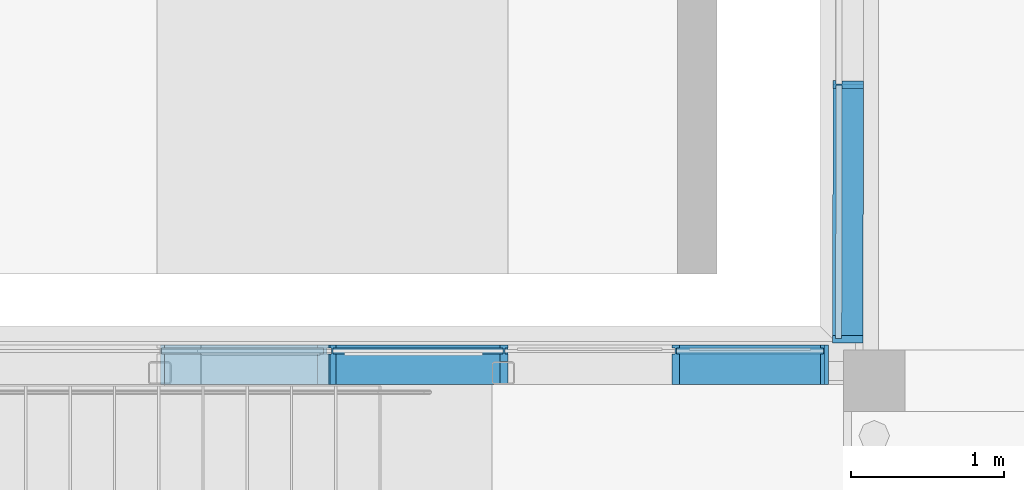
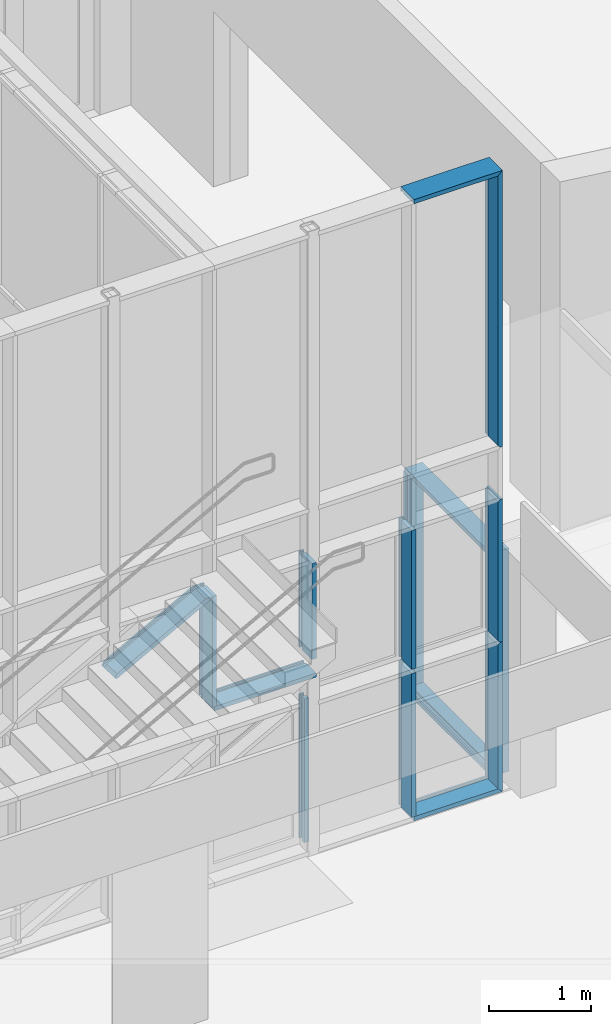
# One storey, part 37 of 301: 16 members, 2 elements without a shape of their own.
"""IFC2X3 building model written with IfcOpenShell, lengths in millimetres."""

from ifc_helpers import new_model, entity, si_unit, converted_unit, derived_unit, money_unit, direction, frame, origin_with_axes, place, context, subcontext, project, spatial, faceted_brep, material, type_object, element, aggregate, save


model = new_model("IFC2X3")

# Units and contexts
model_context = context("Model", 3, precision=0.01, world=origin_with_axes(), true_north=direction((0.0, 1.0)))
body_context = subcontext(model_context, "Body", "Model", "MODEL_VIEW")
ifc_project = project(units=[si_unit("LENGTHUNIT", "METRE", prefix="MILLI"), si_unit("AREAUNIT", "SQUARE_METRE"), si_unit("VOLUMEUNIT", "CUBIC_METRE"), converted_unit("PLANEANGLEUNIT", "DEGREE", entity("IfcPlaneAngleMeasure", 0.0174532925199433), si_unit("PLANEANGLEUNIT", "RADIAN"), dimensions=[0, 0, 0, 0, 0, 0, 0]), money_unit("EUR"), converted_unit("TIMEUNIT", "Year", entity("IfcTimeMeasure", 31557600.0), si_unit("TIMEUNIT", "SECOND"), dimensions=[0, 0, 1, 0, 0, 0, 0]), si_unit("MASSUNIT", "GRAM", prefix="KILO"), si_unit("THERMODYNAMICTEMPERATUREUNIT", "DEGREE_CELSIUS"), si_unit("LUMINOUSINTENSITYUNIT", "LUMEN"), si_unit("ENERGYUNIT", "JOULE", prefix="MEGA"), derived_unit("THERMALCONDUCTANCEUNIT", [(si_unit("POWERUNIT", "WATT"), 1), (si_unit("LENGTHUNIT", "METRE"), -1), (si_unit("THERMODYNAMICTEMPERATUREUNIT", "KELVIN"), -1)]), derived_unit("SPECIFICHEATCAPACITYUNIT", [(si_unit("ENERGYUNIT", "JOULE"), 1), (si_unit("MASSUNIT", "GRAM", prefix="KILO"), -1), (si_unit("THERMODYNAMICTEMPERATUREUNIT", "KELVIN"), -1)]), derived_unit("MASSDENSITYUNIT", [(si_unit("MASSUNIT", "GRAM", prefix="KILO"), 1), (si_unit("VOLUMEUNIT", "CUBIC_METRE"), -1)])], contexts=[model_context])

# Site, building, storey
site_placement = place(None, frame((0.0, 0.0, 8650.0), z_axis=(0.0, 0.0, 1.0), x_axis=(1.0, 0.0, 0.0)))
site = spatial("IfcSite", under=ifc_project, at=site_placement, Name="43301:001:0844", CompositionType="ELEMENT")
building_placement = place(site_placement, origin_with_axes())
building = spatial("IfcBuilding", under=site, at=building_placement, Name="Kuressaare Ametikooli tuulikute mehaanikute õppekorpus", CompositionType="ELEMENT")
storey_placement = place(building_placement, origin_with_axes())
storey = spatial("IfcBuildingStorey", under=building, at=storey_placement, Name="1.korrus", CompositionType="ELEMENT", Elevation=0.0)

# Curtain wall, members
curtain_wall_type = type_object("IfcCurtainWallType", Name="Curtain Wall Type", PredefinedType="NOTDEFINED")
curtain_wall_1_placement = place(storey_placement, frame((116704.6026822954, 28579.57374875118, 35.00000000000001), z_axis=(0.0, 0.0, 1.0), x_axis=(1.0, 0.0, 0.0)))
curtain_wall_1 = element("IfcCurtainWall", 1, at=curtain_wall_1_placement, inside=storey, type_object=curtain_wall_type, Name="KF-1.1")
ifc_material = material(Name="Aluminium")
member_type_1 = type_object("IfcMemberType", Name="Boundary Frame 50 x 260", PredefinedType="NOTDEFINED")
member_1_placement = place(curtain_wall_1_placement, frame((-1687.5, 0.0, 2099.999959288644), z_axis=(1.0, 0.0, 0.0), x_axis=(0.0, 0.0, 1.0)))
member_1 = element("IfcMember", 2, at=member_1_placement, type_object=member_type_1, material=ifc_material, context=body_context, shape_type="Brep", body=[
    faceted_brep([(-4.999999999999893, 19.99999999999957, 1150.000000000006), (-4.999999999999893, -19.99999999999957, 1150.000000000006), (-24.99999999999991, -19.99999999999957, 1150.000000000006), (-24.99999999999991, -39.99999999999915, 1150.000000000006), (24.99999999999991, -39.99999999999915, 1150.000000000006), (24.99999999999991, -19.99999999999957, 1150.000000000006), (4.999999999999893, -19.99999999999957, 1150.000000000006), (4.999999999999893, 19.99999999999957, 1150.000000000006), (24.99999999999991, 19.99999999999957, 1150.000000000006), (24.99999999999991, 219.9999999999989, 1150.000000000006), (-24.99999999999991, 219.9999999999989, 1150.000000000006), (-24.99999999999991, 19.99999999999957, 1150.000000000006), (-4.999999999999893, 19.99999999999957, 0.0), (-4.999999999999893, -19.99999999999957, 0.0), (-24.99999999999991, -19.99999999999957, 0.0), (-24.99999999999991, -39.99999999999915, 0.0), (24.99999999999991, -39.99999999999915, 0.0), (24.99999999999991, -19.99999999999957, 0.0), (4.999999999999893, -19.99999999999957, 0.0), (4.999999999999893, 19.99999999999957, 0.0), (24.99999999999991, 19.99999999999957, 0.0), (24.99999999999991, 219.9999999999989, 0.0), (-24.99999999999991, 219.9999999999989, 0.0), (-24.99999999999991, 19.99999999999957, 0.0)], [[[0, 1, 2, 3, 4, 5, 6, 7, 8, 9, 10, 11]], [[0, 12, 13, 1]], [[1, 13, 14, 2]], [[14, 15, 3, 2]], [[3, 15, 16, 4]], [[17, 5, 4, 16]], [[5, 17, 18, 6]], [[7, 6, 18, 19]], [[8, 7, 19, 20]], [[8, 20, 21, 9]], [[9, 21, 22, 10]], [[11, 10, 22, 23]], [[11, 23, 12, 0]], [[13, 12, 23, 22, 21, 20, 19, 18, 17, 16, 15, 14]]]),
])
member_2_placement = place(curtain_wall_1_placement, frame((1536.918865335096, 0.0, 1765.000006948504), z_axis=(0.0, 0.0, 1.0), x_axis=(-1.0, 0.0, 0.0)))
member_2 = element("IfcMember", 3, at=member_2_placement, type_object=member_type_1, material=ifc_material, context=body_context, shape_type="Brep", body=[
    faceted_brep([(4.999999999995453, 19.99999999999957, 1700.000018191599), (25.00000000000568, 19.99999999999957, 1680.000017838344), (25.00000000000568, 219.9999999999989, 1680.000017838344), (0.0, 219.9999999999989, 1705.000018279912), (0.0, -39.99999999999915, 1705.000018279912), (25.00000000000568, -39.99999999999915, 1680.000017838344), (25.00000000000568, -19.99999999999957, 1680.000017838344), (4.999999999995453, -19.99999999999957, 1700.000018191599), (4.999999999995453, 19.99999999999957, 4.999999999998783), (25.00000000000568, 19.99999999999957, 24.99999999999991), (25.00000000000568, 219.9999999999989, 24.99999999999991), (0.0, 219.9999999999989, 0.0), (-25.00000000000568, 219.9999999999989, 0.0), (-25.00000000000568, 219.9999999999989, 1705.000018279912), (-25.00000000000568, -39.99999999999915, 1705.000018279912), (-25.00000000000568, -39.99999999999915, 0.0), (0.0, -39.99999999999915, 0.0), (25.00000000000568, -39.99999999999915, 24.99999999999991), (25.00000000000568, -19.99999999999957, 24.99999999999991), (4.999999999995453, -19.99999999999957, 4.999999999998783)], [[[0, 1, 2, 3, 4, 5, 6, 7]], [[0, 8, 9, 1]], [[9, 10, 2, 1]], [[3, 2, 10, 11, 12, 13]], [[14, 4, 3, 13]], [[14, 15, 16, 17, 5, 4]], [[6, 5, 17, 18]], [[18, 19, 7, 6]], [[7, 19, 8, 0]], [[8, 19, 18, 17, 16, 11, 10, 9]], [[11, 16, 15, 12]], [[14, 13, 12, 15]]]),
])
member_3_placement = place(curtain_wall_1_placement, frame((562.5, 0.0, 0.0), z_axis=(1.0, 0.0, 0.0), x_axis=(0.0, 0.0, 1.0)))
member_3 = element("IfcMember", 4, at=member_3_placement, type_object=member_type_1, material=ifc_material, context=body_context, shape_type="Brep", body=[
    faceted_brep([(5.000000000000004, 19.99999999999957, 969.4188653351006), (25.00000000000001, 19.99999999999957, 949.4188653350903), (25.00000000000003, 219.9999999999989, 949.4188653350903), (-24.99999999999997, 219.9999999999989, 999.4188653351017), (-25.0, -39.99999999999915, 999.4188653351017), (24.99999999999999, -39.99999999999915, 949.4188653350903), (24.99999999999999, -19.99999999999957, 949.4188653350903), (4.999999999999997, -19.99999999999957, 969.4188653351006), (5.000000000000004, 19.99999999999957, 0.0), (25.00000000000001, 19.99999999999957, 0.0), (25.00000000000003, 219.9999999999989, 0.0), (-24.99999999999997, 219.9999999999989, 0.0), (-25.0, -39.99999999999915, 0.0), (24.99999999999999, -39.99999999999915, 0.0), (24.99999999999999, -19.99999999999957, 0.0), (4.999999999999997, -19.99999999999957, 0.0)], [[[0, 1, 2, 3, 4, 5, 6, 7]], [[0, 8, 9, 1]], [[9, 10, 2, 1]], [[10, 11, 3, 2]], [[11, 12, 4, 3]], [[12, 13, 5, 4]], [[6, 5, 13, 14]], [[14, 15, 7, 6]], [[7, 15, 8, 0]], [[8, 15, 14, 13, 12, 11, 10, 9]]]),
])
member_4_placement = place(curtain_wall_1_placement, frame((1536.918865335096, 0.0, 4090.0), z_axis=(5.811211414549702e-08, 0.0, 0.9999999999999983), x_axis=(-0.9999999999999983, 0.0, 5.811211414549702e-08)))
member_4 = element("IfcMember", 5, at=member_4_placement, type_object=member_type_1, material=ifc_material, context=body_context, shape_type="Brep", body=[
    faceted_brep([(5.000189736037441, 19.99999999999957, 3264.999966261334), (25.00018857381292, 19.99999999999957, 3244.9999634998), (25.00018857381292, 219.9999999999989, 3244.9999634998), (-24.99980852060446, 219.9999999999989, 3294.999970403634), (-24.99980852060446, -39.99999999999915, 3294.999970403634), (25.00018857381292, -39.99999999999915, 3244.9999634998), (25.00018857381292, -19.99999999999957, 3244.9999634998), (5.000189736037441, -19.99999999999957, 3264.999966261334), (5.000000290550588, 19.99999999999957, 4.999999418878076), (25.00000145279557, 19.99999999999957, 24.99999709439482), (25.00000145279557, 219.9999999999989, 24.99999709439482), (0.0, 219.9999999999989, 0.0), (-25.00000000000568, 219.9999999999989, 1.452802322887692e-06), (-25.00000000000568, -39.99999999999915, 1.452802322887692e-06), (0.0, -39.99999999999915, 0.0), (25.00000145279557, -39.99999999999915, 24.99999709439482), (25.00000145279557, -19.99999999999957, 24.99999709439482), (5.000000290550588, -19.99999999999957, 4.999999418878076)], [[[0, 1, 2, 3, 4, 5, 6, 7]], [[0, 8, 9, 1]], [[9, 10, 2, 1]], [[2, 10, 11, 12, 3]], [[3, 12, 13, 4]], [[13, 14, 15, 5, 4]], [[6, 5, 15, 16]], [[16, 17, 7, 6]], [[7, 17, 8, 0]], [[8, 17, 16, 15, 14, 11, 10, 9]], [[11, 14, 13, 12]]]),
])
member_5_placement = place(curtain_wall_1_placement, frame((1536.919055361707, 0.0, 7359.999966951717), z_axis=(-0.9999999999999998, 0.0, -2.1852463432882e-08), x_axis=(2.1852463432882e-08, 0.0, -0.9999999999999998)))
member_5 = element("IfcMember", 6, at=member_5_placement, type_object=member_type_1, material=ifc_material, context=body_context, shape_type="Brep", body=[
    faceted_brep([(4.999978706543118, 19.99999999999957, 974.4190560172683), (24.99997870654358, 19.99999999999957, 974.4190564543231), (24.99997870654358, 219.9999999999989, 974.4190564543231), (-25.00002129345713, 219.9999999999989, 974.4190553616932), (-25.00002129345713, -39.99999999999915, 974.4190553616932), (24.99997870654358, -39.99999999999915, 974.4190564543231), (24.99997870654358, -19.99999999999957, 974.4190564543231), (4.999978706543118, -19.99999999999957, 974.4190560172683), (4.999999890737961, 19.99999999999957, 5.000000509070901), (24.99999945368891, 19.99999999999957, 25.00000254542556), (24.99999945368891, 219.9999999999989, 25.00000254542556), (-24.99999945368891, 219.9999999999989, -25.00000254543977), (-24.99999945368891, -39.99999999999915, -25.00000254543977), (24.99999945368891, -39.99999999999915, 25.00000254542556), (24.99999945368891, -19.99999999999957, 25.00000254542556), (4.999999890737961, -19.99999999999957, 5.000000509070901)], [[[0, 1, 2, 3, 4, 5, 6, 7]], [[0, 8, 9, 1]], [[9, 10, 2, 1]], [[2, 10, 11, 3]], [[3, 11, 12, 4]], [[4, 12, 13, 5]], [[6, 5, 13, 14]], [[14, 15, 7, 6]], [[7, 15, 8, 0]], [[8, 15, 14, 13, 12, 11, 10, 9]]]),
])
member_6_placement = place(curtain_wall_1_placement, frame((1536.918865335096, 0.0, 0.0), z_axis=(0.0, 0.0, 1.0), x_axis=(-1.0, 0.0, 0.0)))
member_6 = element("IfcMember", 7, at=member_6_placement, type_object=member_type_1, material=ifc_material, context=body_context, shape_type="Brep", body=[
    faceted_brep([(4.999999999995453, 19.99999999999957, 1760.000006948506), (25.00000000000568, 19.99999999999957, 1740.000006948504), (25.00000000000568, 219.9999999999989, 1740.000006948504), (0.0, 219.9999999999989, 1765.000006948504), (0.0, -39.99999999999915, 1765.000006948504), (25.00000000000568, -39.99999999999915, 1740.000006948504), (25.00000000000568, -19.99999999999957, 1740.000006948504), (4.999999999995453, -19.99999999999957, 1760.000006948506), (4.999999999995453, 19.99999999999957, 5.000000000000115), (25.00000000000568, 19.99999999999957, 25.00000000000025), (25.00000000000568, 219.9999999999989, 25.00000000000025), (-25.00000000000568, 219.9999999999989, 1765.000006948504), (-25.00000000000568, 219.9999999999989, -24.99999999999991), (-25.00000000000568, -39.99999999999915, 1765.000006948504), (25.00000000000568, -39.99999999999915, 25.00000000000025), (-25.00000000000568, -39.99999999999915, -25.00000000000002), (25.00000000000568, -19.99999999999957, 25.00000000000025), (4.999999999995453, -19.99999999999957, 5.000000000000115)], [[[0, 1, 2, 3, 4, 5, 6, 7]], [[0, 8, 9, 1]], [[9, 10, 2, 1]], [[11, 3, 2, 10, 12]], [[4, 3, 11, 13]], [[14, 5, 4, 13, 15]], [[6, 5, 14, 16]], [[16, 17, 7, 6]], [[7, 17, 8, 0]], [[8, 17, 16, 14, 15, 12, 10, 9]], [[11, 12, 15, 13]]]),
])
member_type_2 = type_object("IfcMemberType", Name="Mullion Frame 50 x 260", PredefinedType="NOTDEFINED")
member_7_placement = place(curtain_wall_1_placement, frame((-562.5, 0.0, 2299.999975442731), z_axis=(0.0, 0.0, 1.0), x_axis=(-1.0, 0.0, 0.0)))
member_7 = element("IfcMember", 8, at=member_7_placement, type_object=member_type_2, material=ifc_material, context=body_context, shape_type="Brep", body=[
    faceted_brep([(-4.999999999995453, 19.99999999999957, 1145.000032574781), (-4.999999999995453, -19.99999999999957, 1145.000032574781), (-25.00000000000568, -19.99999999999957, 1145.000032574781), (-25.00000000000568, -39.99999999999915, 1145.000032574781), (25.00000000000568, -39.99999999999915, 1145.000032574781), (25.00000000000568, -19.99999999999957, 1145.000032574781), (4.999999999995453, -19.99999999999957, 1145.000032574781), (4.999999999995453, 19.99999999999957, 1145.000032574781), (25.00000000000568, 19.99999999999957, 1145.000032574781), (25.00000000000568, 219.9999999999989, 1145.000032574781), (-25.00000000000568, 219.9999999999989, 1145.000032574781), (-25.00000000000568, 19.99999999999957, 1145.000032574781), (-4.999999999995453, 19.99999999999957, 0.0), (-4.999999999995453, -19.99999999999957, 0.0), (-25.00000000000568, -19.99999999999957, 0.0), (-25.00000000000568, -39.99999999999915, 0.0), (25.00000000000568, -39.99999999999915, 0.0), (25.00000000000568, -19.99999999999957, 0.0), (4.999999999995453, -19.99999999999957, 0.0), (4.999999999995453, 19.99999999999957, 0.0), (25.00000000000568, 19.99999999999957, 0.0), (25.00000000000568, 219.9999999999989, 0.0), (-25.00000000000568, 219.9999999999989, 0.0), (-25.00000000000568, 19.99999999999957, 0.0)], [[[0, 1, 2, 3, 4, 5, 6, 7, 8, 9, 10, 11]], [[0, 12, 13, 1]], [[1, 13, 14, 2]], [[14, 15, 3, 2]], [[3, 15, 16, 4]], [[17, 5, 4, 16]], [[5, 17, 18, 6]], [[7, 6, 18, 19]], [[8, 7, 19, 20]], [[8, 20, 21, 9]], [[9, 21, 22, 10]], [[11, 10, 22, 23]], [[11, 23, 12, 0]], [[13, 12, 23, 22, 21, 20, 19, 18, 17, 16, 15, 14]]]),
])
member_8_placement = place(curtain_wall_1_placement, frame((562.5, 0.0, 1765.000006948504), z_axis=(0.0, 0.0, 1.0), x_axis=(-1.0, 0.0, 0.0)))
member_8 = element("IfcMember", 9, at=member_8_placement, type_object=member_type_2, material=ifc_material, context=body_context, shape_type="Brep", body=[
    faceted_brep([(-4.999999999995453, 19.99999999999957, 1680.000000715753), (-4.999999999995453, -19.99999999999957, 1680.000001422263), (-25.00000000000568, -19.99999999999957, 1680.000001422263), (-25.00000000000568, -39.99999999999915, 1680.000001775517), (25.00000000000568, -39.99999999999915, 1680.000001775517), (25.00000000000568, -19.99999999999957, 1680.000001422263), (4.999999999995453, -19.99999999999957, 1680.000001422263), (4.999999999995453, 19.99999999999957, 1680.000000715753), (25.00000000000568, 19.99999999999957, 1680.000000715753), (25.00000000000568, 219.9999999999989, 1679.999997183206), (-25.00000000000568, 219.9999999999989, 1679.999997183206), (-25.00000000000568, 19.99999999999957, 1680.000000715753), (-4.999999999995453, 19.99999999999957, 25.00000015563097), (-4.999999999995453, -19.99999999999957, 24.99999984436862), (-25.00000000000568, -19.99999999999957, 24.99999984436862), (-25.00000000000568, -39.99999999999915, 24.99999968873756), (25.00000000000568, -39.99999999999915, 24.99999968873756), (25.00000000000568, -19.99999999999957, 24.99999984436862), (4.999999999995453, -19.99999999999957, 24.99999984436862), (4.999999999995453, 19.99999999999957, 25.00000015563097), (25.00000000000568, 19.99999999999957, 25.00000015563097), (25.00000000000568, 219.9999999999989, 25.00000171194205), (-25.00000000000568, 219.9999999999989, 25.00000171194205), (-25.00000000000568, 19.99999999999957, 25.00000015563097)], [[[0, 1, 2, 3, 4, 5, 6, 7, 8, 9, 10, 11]], [[0, 12, 13, 1]], [[1, 13, 14, 2]], [[14, 15, 3, 2]], [[4, 3, 15, 16]], [[17, 5, 4, 16]], [[5, 17, 18, 6]], [[7, 6, 18, 19]], [[8, 7, 19, 20]], [[8, 20, 21, 9]], [[10, 9, 21, 22]], [[11, 10, 22, 23]], [[11, 23, 12, 0]], [[13, 12, 23, 22, 21, 20, 19, 18, 17, 16, 15, 14]]]),
])
member_9_placement = place(curtain_wall_1_placement, frame((-1687.5, 0.0, 2124.999959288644), z_axis=(0.0, 0.0, 1.0), x_axis=(-1.0, 0.0, 0.0)))
member_9 = element("IfcMember", 10, at=member_9_placement, type_object=member_type_2, material=ifc_material, context=body_context, shape_type="Brep", body=[
    faceted_brep([(-4.999999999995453, 19.99999999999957, 1320.000048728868), (-4.999999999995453, -19.99999999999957, 1320.000048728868), (-25.00000000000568, -19.99999999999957, 1320.000048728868), (-25.00000000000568, -39.99999999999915, 1320.000048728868), (14.86493366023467, -39.99999999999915, 1320.000048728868), (14.86493366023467, -19.99999999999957, 1320.000048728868), (4.999999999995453, -19.99999999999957, 1320.000048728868), (4.999999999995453, 19.99999999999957, 1320.000048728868), (14.86493366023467, 19.99999999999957, 1320.000048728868), (14.86493366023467, 219.9999999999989, 1320.000048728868), (-25.00000000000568, 219.9999999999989, 1320.000048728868), (-25.00000000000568, 19.99999999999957, 1320.000048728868), (-4.999999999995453, 19.99999999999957, 0.0), (-4.999999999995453, -19.99999999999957, 0.0), (-25.00000000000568, -19.99999999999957, 0.0), (-25.00000000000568, -39.99999999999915, 0.0), (25.00000000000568, -39.99999999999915, 0.0), (25.00000000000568, -39.99999999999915, 1302.954788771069), (25.00000000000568, -19.99999999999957, 1302.954788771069), (25.00000000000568, -19.99999999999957, 0.0), (4.999999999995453, -19.99999999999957, 0.0), (4.999999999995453, 19.99999999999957, 0.0), (25.00000000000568, 19.99999999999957, 0.0), (25.00000000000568, 19.99999999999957, 1302.954788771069), (25.00000000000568, 219.9999999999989, 1302.954788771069), (25.00000000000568, 219.9999999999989, 0.0), (-25.00000000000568, 219.9999999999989, 0.0), (-25.00000000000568, 19.99999999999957, 0.0)], [[[0, 1, 2, 3, 4, 5, 6, 7, 8, 9, 10, 11]], [[0, 12, 13, 1]], [[1, 13, 14, 2]], [[14, 15, 3, 2]], [[15, 16, 17, 4, 3]], [[18, 5, 4, 17]], [[5, 18, 19, 20, 6]], [[7, 6, 20, 21]], [[22, 23, 8, 7, 21]], [[8, 23, 24, 9]], [[24, 25, 26, 10, 9]], [[11, 10, 26, 27]], [[11, 27, 12, 0]], [[13, 12, 27, 26, 25, 22, 21, 20, 19, 16, 15, 14]], [[19, 18, 17, 16]], [[23, 22, 25, 24]]]),
])
member_10_placement = place(curtain_wall_1_placement, frame((-1687.5, 0.0, 3470.000008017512), z_axis=(-0.8785772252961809, 0.0, -0.4776003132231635), x_axis=(0.4776003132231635, 0.0, -0.8785772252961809)))
member_10 = element("IfcMember", 11, at=member_10_placement, type_object=member_type_2, material=ifc_material, context=body_context, shape_type="Brep", body=[
    faceted_brep([(-5.000000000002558, 19.99999999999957, 1272.0703044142), (-5.000000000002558, -19.99999999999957, 1272.0703044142), (-24.99999999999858, -19.99999999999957, 1238.434096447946), (-24.99999999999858, -39.99999999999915, 1238.434096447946), (0.0, -39.99999999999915, 1280.479356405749), (0.0, 219.9999999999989, 1280.479356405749), (-24.99999999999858, 219.9999999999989, 1238.434096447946), (-24.99999999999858, 19.99999999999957, 1238.434096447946), (-5.000000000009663, 19.99999999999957, 61.54285353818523), (-5.000000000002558, -19.99999999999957, 61.54285353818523), (-25.00000000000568, -19.99999999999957, 98.33417050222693), (-25.00000000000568, -39.99999999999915, 98.33417050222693), (14.86493366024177, -39.99999999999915, 24.99999999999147), (24.99999999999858, -39.99999999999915, 42.04525995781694), (24.99999999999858, -39.99999999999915, 1265.614422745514), (24.99999999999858, -19.99999999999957, 1265.614422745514), (4.999999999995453, -19.99999999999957, 1277.506369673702), (4.999999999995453, 19.99999999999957, 1277.506369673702), (24.99999999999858, 19.99999999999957, 1265.614422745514), (24.99999999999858, 219.9999999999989, 1265.614422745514), (14.86493366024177, 219.9999999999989, 24.99999999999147), (-25.00000000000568, 219.9999999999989, 98.33417050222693), (24.99999999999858, 219.9999999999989, 42.04525995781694), (-25.00000000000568, 19.99999999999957, 98.33417050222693), (14.86493366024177, 19.99999999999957, 24.99999999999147), (5.000000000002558, 19.99999999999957, 43.14719505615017), (5.000000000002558, -19.99999999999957, 43.14719505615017), (14.86493366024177, -19.99999999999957, 24.99999999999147), (24.99999999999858, -19.99999999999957, 42.04525995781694), (24.99999999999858, 19.99999999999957, 42.04525995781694)], [[[0, 1, 2, 3, 4, 5, 6, 7]], [[0, 8, 9, 1]], [[1, 9, 10, 2]], [[10, 11, 3, 2]], [[12, 13, 14, 4, 3, 11]], [[5, 4, 14, 15, 16, 17, 18, 19]], [[20, 21, 6, 5, 19, 22]], [[7, 6, 21, 23]], [[7, 23, 8, 0]], [[9, 8, 23, 21, 20, 24, 25, 26, 27, 12, 11, 10]], [[27, 28, 13, 12]], [[28, 15, 14, 13]], [[16, 15, 28, 27, 26]], [[17, 16, 26, 25]], [[29, 18, 17, 25, 24]], [[18, 29, 22, 19]], [[29, 24, 20, 22]]]),
])
member_11_placement = place(curtain_wall_1_placement, frame((562.5, 0.0, 0.0), z_axis=(0.0, 0.0, 1.0), x_axis=(-1.0, 0.0, 0.0)))
member_11 = element("IfcMember", 12, at=member_11_placement, type_object=member_type_2, material=ifc_material, context=body_context, shape_type="Brep", body=[
    faceted_brep([(-4.999999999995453, 19.99999999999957, 1740.000006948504), (-4.999999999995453, -19.99999999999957, 1740.000006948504), (-25.00000000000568, -19.99999999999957, 1740.000006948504), (-25.00000000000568, -39.99999999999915, 1740.000006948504), (25.00000000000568, -39.99999999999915, 1740.000006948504), (25.00000000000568, -19.99999999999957, 1740.000006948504), (4.999999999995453, -19.99999999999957, 1740.000006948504), (4.999999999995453, 19.99999999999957, 1740.000006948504), (25.00000000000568, 19.99999999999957, 1740.000006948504), (25.00000000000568, 219.9999999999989, 1740.000006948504), (-25.00000000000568, 219.9999999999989, 1740.000006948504), (-25.00000000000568, 19.99999999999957, 1740.000006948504), (-4.999999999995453, 19.99999999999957, 24.99999999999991), (-4.999999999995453, -19.99999999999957, 24.99999999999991), (-25.00000000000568, -19.99999999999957, 25.00000000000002), (-25.00000000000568, -39.99999999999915, 25.00000000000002), (25.00000000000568, -39.99999999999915, 25.00000000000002), (25.00000000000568, -19.99999999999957, 25.00000000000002), (4.999999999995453, -19.99999999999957, 24.99999999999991), (4.999999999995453, 19.99999999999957, 24.99999999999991), (25.00000000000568, 19.99999999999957, 25.00000000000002), (25.00000000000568, 219.9999999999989, 25.00000000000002), (-25.00000000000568, 219.9999999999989, 25.00000000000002), (-25.00000000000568, 19.99999999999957, 25.00000000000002)], [[[0, 1, 2, 3, 4, 5, 6, 7, 8, 9, 10, 11]], [[0, 12, 13, 1]], [[1, 13, 14, 2]], [[14, 15, 3, 2]], [[4, 3, 15, 16]], [[17, 5, 4, 16]], [[5, 17, 18, 6]], [[7, 6, 18, 19]], [[8, 7, 19, 20]], [[8, 20, 21, 9]], [[10, 9, 21, 22]], [[11, 10, 22, 23]], [[11, 23, 12, 0]], [[13, 12, 23, 22, 21, 20, 19, 18, 17, 16, 15, 14]]]),
])
member_type_3 = type_object("IfcMemberType", Name="50 x 110", PredefinedType="NOTDEFINED")
member_12_placement = place(curtain_wall_1_placement, frame((-562.5, 0.0, 0.0), z_axis=(0.0, 0.0, 1.0), x_axis=(-1.0, 0.0, 0.0)))
member_12 = element("IfcMember", 13, at=member_12_placement, type_object=member_type_3, material=ifc_material, context=body_context, shape_type="Brep", body=[
    faceted_brep([(-4.999999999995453, 19.99999999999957, 1739.999998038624), (-4.999999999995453, -19.99999999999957, 1739.999998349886), (-25.00000000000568, -19.99999999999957, 1739.999998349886), (-25.00000000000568, -39.99999999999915, 1739.999998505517), (25.00000000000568, -39.99999999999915, 1739.999998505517), (25.00000000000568, -19.99999999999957, 1739.999998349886), (4.999999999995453, -19.99999999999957, 1739.999998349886), (4.999999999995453, 19.99999999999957, 1739.999998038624), (25.00000000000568, 19.99999999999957, 1739.999998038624), (25.00000000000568, 70.00000000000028, 1739.999997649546), (-25.00000000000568, 70.00000000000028, 1739.999997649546), (-25.00000000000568, 19.99999999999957, 1739.999998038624), (-4.999999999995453, 19.99999999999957, 24.99999999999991), (-4.999999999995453, -19.99999999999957, 24.99999999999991), (-25.00000000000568, -19.99999999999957, 25.00000000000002), (-25.00000000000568, -39.99999999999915, 25.00000000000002), (25.00000000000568, -39.99999999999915, 25.00000000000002), (25.00000000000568, -19.99999999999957, 25.00000000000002), (4.999999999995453, -19.99999999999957, 24.99999999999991), (4.999999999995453, 19.99999999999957, 24.99999999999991), (25.00000000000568, 19.99999999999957, 25.00000000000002), (25.00000000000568, 70.00000000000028, 25.00000000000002), (-25.00000000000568, 70.00000000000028, 25.00000000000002), (-25.00000000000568, 19.99999999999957, 25.00000000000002)], [[[0, 1, 2, 3, 4, 5, 6, 7, 8, 9, 10, 11]], [[0, 12, 13, 1]], [[1, 13, 14, 2]], [[14, 15, 3, 2]], [[4, 3, 15, 16]], [[17, 5, 4, 16]], [[5, 17, 18, 6]], [[7, 6, 18, 19]], [[8, 7, 19, 20]], [[8, 20, 21, 9]], [[10, 9, 21, 22]], [[11, 10, 22, 23]], [[11, 23, 12, 0]], [[13, 12, 23, 22, 21, 20, 19, 18, 17, 16, 15, 14]]]),
])
aggregate(curtain_wall_1, [member_1, member_7, member_2, member_8, member_9, member_10, member_3, member_4, member_5, member_6, member_11, member_12])

curtain_wall_2_placement = place(storey_placement, frame((118335.7921529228, 29489.81776331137, 34.99994345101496), z_axis=(0.0, 0.0, 1.0), x_axis=(1.0, 0.0, 0.0)))
curtain_wall_2 = element("IfcCurtainWall", 14, at=curtain_wall_2_placement, inside=storey, type_object=curtain_wall_type, Name="KF-1.2")
member_type_4 = type_object("IfcMemberType", Name="Boundary Frame 50 x 200", PredefinedType="NOTDEFINED")
member_13_placement = place(curtain_wall_2_placement, frame((-1.114322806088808, -834.5590644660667, 0.0), z_axis=(0.0, 0.0, 1.0), x_axis=(0.001335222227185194, 0.9999991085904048, 0.0)))
member_13 = element("IfcMember", 15, at=member_13_placement, type_object=member_type_4, material=ifc_material, context=body_context, shape_type="Brep", body=[
    faceted_brep([(4.999999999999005, -19.99999999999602, 2605.000019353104), (4.999999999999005, 19.99999999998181, 2605.000019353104), (24.99999999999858, 19.99999999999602, 2585.000019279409), (24.99999999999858, 39.99999999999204, 2585.000019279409), (-25.00000000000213, 39.99999999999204, 2635.000019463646), (-25.00000000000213, -159.9999999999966, 2635.000019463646), (24.99999999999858, -160.000000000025, 2585.00001927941), (24.99999999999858, -20.00000000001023, 2585.000019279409), (4.999999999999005, -19.99999999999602, 4.999999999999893), (4.999999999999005, 19.99999999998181, 5.000000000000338), (24.99999999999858, 19.99999999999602, 25.00000000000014), (24.99999999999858, 39.99999999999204, 25.00000000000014), (-25.00000000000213, 39.99999999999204, -24.99999999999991), (-25.00000000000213, -159.9999999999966, -25.00000000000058), (24.99999999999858, -160.000000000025, 24.99999999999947), (24.99999999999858, -20.00000000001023, 24.99999999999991)], [[[0, 1, 2, 3, 4, 5, 6, 7]], [[1, 0, 8, 9]], [[10, 2, 1, 9]], [[2, 10, 11, 3]], [[4, 3, 11, 12]], [[5, 4, 12, 13]], [[6, 5, 13, 14]], [[15, 7, 6, 14]], [[0, 7, 15, 8]], [[8, 15, 14, 13, 12, 11, 10, 9]]]),
])
member_14_placement = place(curtain_wall_2_placement, frame((1.114322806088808, 834.5590644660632, 0.0), z_axis=(-0.001335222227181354, -0.9999991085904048, 0.0), x_axis=(0.0, 0.0, 1.0)))
member_14 = element("IfcMember", 16, at=member_14_placement, type_object=member_type_4, material=ifc_material, context=body_context, shape_type="Brep", body=[
    faceted_brep([(5.000000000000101, -20.00000000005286, 1664.119616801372), (5.000000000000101, 19.99999999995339, 1664.119616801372), (25.00000000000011, 19.99999999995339, 1644.119616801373), (25.00000000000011, 39.99999999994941, 1644.119616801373), (-24.99999999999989, 39.99999999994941, 1694.119616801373), (-24.9999999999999, -160.0000000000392, 1694.11961680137), (25.00000000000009, -160.0000000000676, 1644.119616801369), (25.00000000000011, -20.00000000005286, 1644.119616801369), (4.999999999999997, -20.00000000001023, 0.0), (5.000000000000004, 19.99999999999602, 0.0), (25.0, 19.99999999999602, 0.0), (25.00000000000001, 39.99999999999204, 0.0), (-24.99999999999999, 39.99999999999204, 0.0), (-25.00000000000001, -159.9999999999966, 0.0), (24.99999999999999, -159.9999999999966, 0.0), (25.0, -20.00000000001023, 0.0)], [[[0, 1, 2, 3, 4, 5, 6, 7]], [[1, 0, 8, 9]], [[10, 2, 1, 9]], [[2, 10, 11, 3]], [[12, 4, 3, 11]], [[13, 5, 4, 12]], [[14, 6, 5, 13]], [[15, 7, 6, 14]], [[0, 7, 15, 8]], [[8, 15, 14, 13, 12, 11, 10, 9]]]),
])
member_15_placement = place(curtain_wall_2_placement, frame((-1.114322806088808, -834.5590644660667, 2610.000019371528), z_axis=(0.001335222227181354, 0.9999991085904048, -3.684742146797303e-09), x_axis=(0.0, -3.684738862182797e-09, -1.0)))
member_15 = element("IfcMember", 17, at=member_15_placement, type_object=member_type_4, material=ifc_material, context=body_context, shape_type="Brep", body=[
    faceted_brep([(4.999993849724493, -19.99999999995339, 1669.11961691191), (4.999993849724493, 20.00000000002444, 1669.11961691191), (24.99999384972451, 20.00000000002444, 1669.119616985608), (24.99999384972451, 40.00000000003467, 1669.119616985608), (-25.00000615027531, 40.00000000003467, 1669.119616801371), (-25.00000615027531, -159.999999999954, 1669.119616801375), (24.99999384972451, -159.999999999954, 1669.119616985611), (24.99999384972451, -19.99999999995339, 1669.119616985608), (4.999999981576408, -19.99999999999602, 5.000000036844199), (4.999999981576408, 19.99999999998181, 5.000000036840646), (24.9999999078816, 19.99999999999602, 25.0000001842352), (24.9999999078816, 39.99999999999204, 25.0000001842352), (-24.99999990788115, 39.99999999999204, -25.00000018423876), (-24.99999990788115, -160.0000000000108, -25.0000001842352), (24.9999999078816, -160.0000000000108, 25.00000018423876), (24.9999999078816, -20.00000000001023, 25.00000018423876)], [[[0, 1, 2, 3, 4, 5, 6, 7]], [[1, 0, 8, 9]], [[10, 2, 1, 9]], [[2, 10, 11, 3]], [[4, 3, 11, 12]], [[5, 4, 12, 13]], [[6, 5, 13, 14]], [[15, 7, 6, 14]], [[0, 7, 15, 8]], [[8, 15, 14, 13, 12, 11, 10, 9]]]),
])
member_type_5 = type_object("IfcMemberType", Name="Mullion Frame 50 x 200", PredefinedType="NOTDEFINED")
member_16_placement = place(curtain_wall_2_placement, frame((1.114322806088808, 834.5590644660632, 0.0), z_axis=(0.0, 0.0, 1.0), x_axis=(0.001335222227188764, 0.9999991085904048, 0.0)))
member_16 = element("IfcMember", 18, at=member_16_placement, type_object=member_type_5, material=ifc_material, context=body_context, shape_type="Brep", body=[
    faceted_brep([(-4.999999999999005, -20.00000000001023, 2585.000013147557), (-25.00000000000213, -20.00000000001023, 2585.000013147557), (-24.99999999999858, -159.9999999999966, 2585.000012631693), (24.99999999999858, -160.0000000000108, 2585.000012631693), (25.00000000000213, -20.00000000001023, 2585.000013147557), (4.999999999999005, -19.99999999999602, 2585.000013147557), (4.999999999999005, 19.99999999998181, 2585.000013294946), (24.99999999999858, 19.99999999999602, 2585.000013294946), (24.99999999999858, 39.99999999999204, 2585.000013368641), (-25.00000000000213, 39.99999999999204, 2585.000013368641), (-25.00000000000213, 19.99999999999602, 2585.000013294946), (-5.000000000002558, 19.99999999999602, 2585.000013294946), (-4.999999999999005, -20.00000000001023, 24.99999999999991), (-25.00000000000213, -20.00000000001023, 24.99999999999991), (-24.99999999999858, -159.9999999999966, 24.99999999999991), (24.99999999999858, -160.0000000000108, 24.99999999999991), (25.00000000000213, -20.00000000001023, 24.99999999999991), (4.999999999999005, -19.99999999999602, 24.99999999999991), (4.999999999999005, 19.99999999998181, 24.99999999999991), (24.99999999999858, 19.99999999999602, 24.99999999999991), (24.99999999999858, 39.99999999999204, 24.99999999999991), (-25.00000000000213, 39.99999999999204, 24.99999999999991), (-25.00000000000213, 19.99999999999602, 24.99999999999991), (-5.000000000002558, 19.99999999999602, 24.99999999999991)], [[[0, 1, 2, 3, 4, 5, 6, 7, 8, 9, 10, 11]], [[1, 0, 12, 13]], [[1, 13, 14, 2]], [[2, 14, 15, 3]], [[4, 3, 15, 16]], [[4, 16, 17, 5]], [[5, 17, 18, 6]], [[7, 6, 18, 19]], [[19, 20, 8, 7]], [[8, 20, 21, 9]], [[22, 10, 9, 21]], [[11, 10, 22, 23]], [[0, 11, 23, 12]], [[23, 22, 21, 20, 19, 18, 17, 16, 15, 14, 13, 12]]]),
])
aggregate(curtain_wall_2, [member_13, member_14, member_16, member_15])

save(model, "model.ifc")
